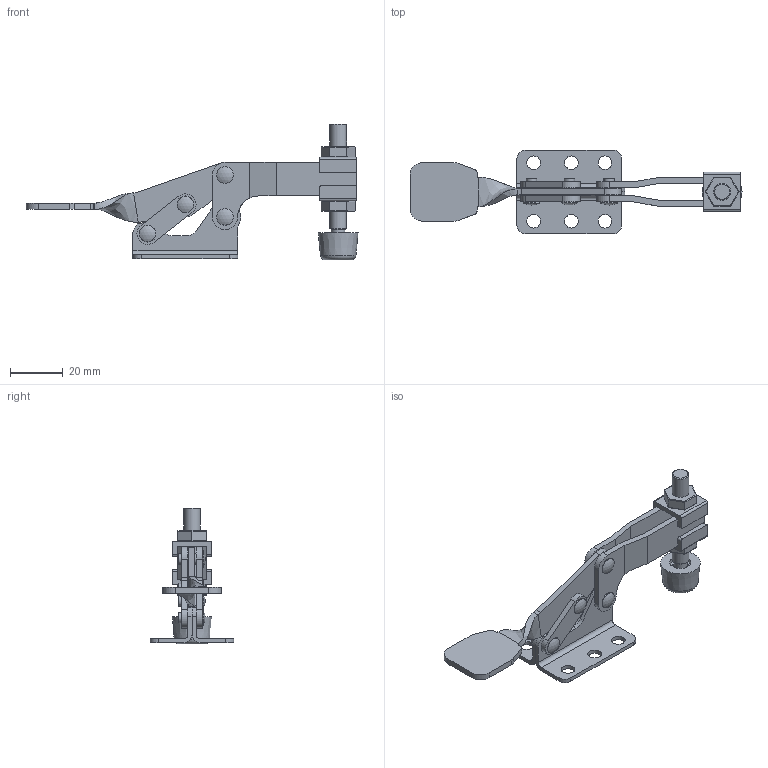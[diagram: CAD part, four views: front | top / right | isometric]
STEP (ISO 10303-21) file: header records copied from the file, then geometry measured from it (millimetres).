
FILE_DESCRIPTION(/* description */ (''),/* implementation_level */ '2;1');
FILE_NAME(/* name */ 'h-200-ss',/* time_stamp */ '2004-12-16T01:02:34-05:00',/* author */ (''),/* organization */ (''),/* preprocessor_version */ 'ST-DEVELOPER v9',/* originating_system */ 'EDS PLM SOLUTIONS - UNIGRAPHICS NX 2.0',/* authorisation */ '');
FILE_SCHEMA (('AUTOMOTIVE_DESIGN { 1 0 10303 214 0 1 1 1 }'));
Length unit declared in the file: inch
Products named in the file (1): mfurED7Asrns
Bounding box: 125.82 x 31.75 x 51.53 mm (x, y, z)
Volume: 15073.7 mm3; surface area: 17711.2 mm2
Topology: 17 solids, 17 shells, 267 faces, 652 edges, 426 vertices
Faces by surface type: cylinder 119, plane 118, torus 16, cone 6, bspline 4, sphere 4
Full cylindrical faces by diameter (mm): 2.769 x4, 3.937 x4, 4.013 x10, 4.064 x4, 5.156 x6, 5.159 x1, 6.35 x3, 6.756 x2, 7.95 x1, 11.887 x1
Entity records: 7879 total; most frequent: CARTESIAN_POINT 1574, DIRECTION 1318, ORIENTED_EDGE 1144, EDGE_CURVE 572, AXIS2_PLACEMENT_3D 504, VERTEX_POINT 408, EDGE_LOOP 380, LINE 310
